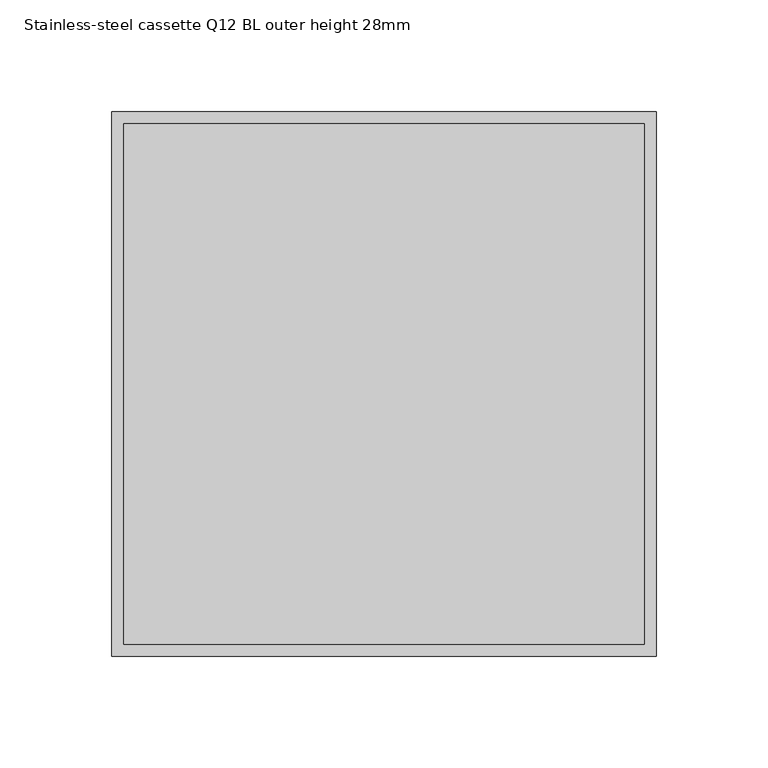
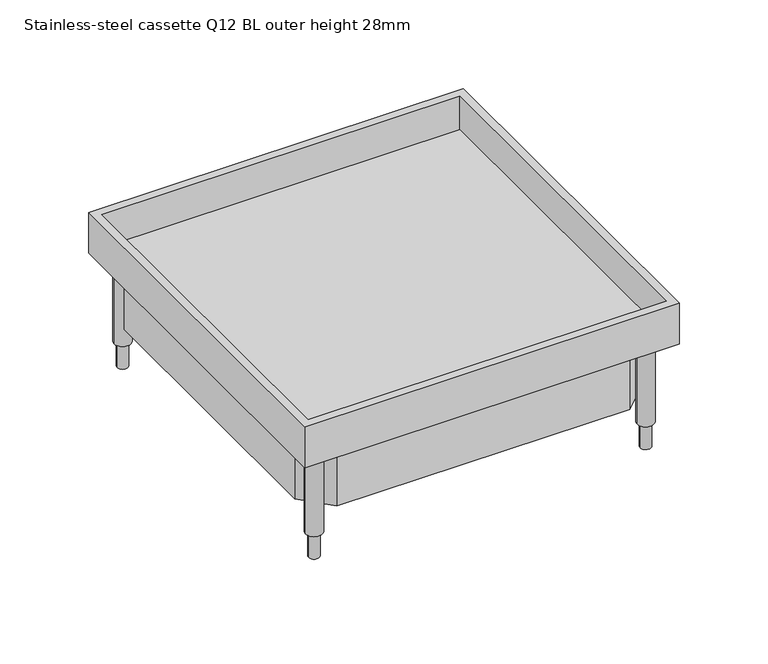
"""IFC4 building model written with IfcOpenShell, lengths in millimetres: proxy geometry, Electrical_Installation_Hager_VE-EE_EKQ-Height-adjustable-stainless-steel-cassette-blank-square-for-damp-cleaned-floors : Stainless-steel cassette Q12 BL outer height 28mm."""

from ifc_helpers import new_model, si_unit, point, frame, frame_2d, origin, place, context, project, spatial, polyline, circle_curve, trimmed, segment, composite_curve, outline, extrude, source, transform, mapped, element, save


def stainless_steel_cassette_q12_bl_outer_height_28mm_38aa1d54(model_context):
    return source(origin(), model_context, "Body", "SweptSolid", [
        extrude(outline(composite_curve([segment(trimmed(circle_curve(frame_2d((-108.0, 108.0)), 3.5), [point((-111.5, 108.0))], [point((-104.5, 108.0))], False, "CARTESIAN"), True, "CONTINUOUS"), segment(trimmed(circle_curve(frame_2d((-108.0, 108.0)), 3.5), [point((-104.5, 108.0))], [point((-111.5, 108.0))], False, "CARTESIAN"), True, "CONTINUOUS")], self_intersect=False)), frame((0.0, 0.0, -100.0), z_axis=(0.0, 0.0, 1.0), x_axis=(1.0, 0.0, 0.0)), (0.0, 0.0, 1.0), 17.0011554),
        extrude(outline(composite_curve([segment(trimmed(circle_curve(frame_2d((108.0, 108.0)), 3.5), [point((104.5, 108.0))], [point((111.5, 108.0))], False, "CARTESIAN"), True, "CONTINUOUS"), segment(trimmed(circle_curve(frame_2d((108.0, 108.0)), 3.5), [point((111.5, 108.0))], [point((104.5, 108.0))], False, "CARTESIAN"), True, "CONTINUOUS")], self_intersect=False)), frame((0.0, 0.0, -100.0), z_axis=(0.0, 0.0, 1.0), x_axis=(1.0, 0.0, 0.0)), (0.0, 0.0, 1.0), 17.0011554),
        extrude(outline(composite_curve([segment(trimmed(circle_curve(frame_2d((108.0, -108.0)), 3.523354), [point((104.476646, -108.0))], [point((111.523354, -108.0))], False, "CARTESIAN"), True, "CONTINUOUS"), segment(trimmed(circle_curve(frame_2d((108.0, -108.0)), 3.523354), [point((111.523354, -108.0))], [point((104.476646, -108.0))], False, "CARTESIAN"), True, "CONTINUOUS")], self_intersect=False)), frame((0.0, 0.0, -100.0), z_axis=(0.0, 0.0, 1.0), x_axis=(1.0, 0.0, 0.0)), (0.0, 0.0, 1.0), 17.0011554),
        extrude(outline(composite_curve([segment(trimmed(circle_curve(frame_2d((-108.0, -108.0)), 3.5), [point((-111.5, -108.0))], [point((-104.5, -108.0))], False, "CARTESIAN"), True, "CONTINUOUS"), segment(trimmed(circle_curve(frame_2d((-108.0, -108.0)), 3.5), [point((-104.5, -108.0))], [point((-111.5, -108.0))], False, "CARTESIAN"), True, "CONTINUOUS")], self_intersect=False)), frame((0.0, 0.0, -100.0), z_axis=(0.0, 0.0, 1.0), x_axis=(1.0, 0.0, 0.0)), (0.0, 0.0, 1.0), 17.0011554),
        extrude(outline(polyline([(4.7, 113.0), (95.3639966, 113.0), (113.0, 96.0470649), (113.0, -95.1394213), (94.7984665, -113.0), (-95.867755, -113.0), (-113.0, -95.1801256), (-113.0, 97.543544), (-95.6272863, 113.0), (4.7, 113.0)]), holes=[polyline([(-110.0, 96.3642535), (-110.0, -94.134929), (-94.4180331, -110.0), (93.4123304, -110.0), (110.0, -94.0355815), (110.0, 94.9312235), (93.9906502, 110.0), (4.7, 110.0), (-94.3203352, 110.0), (-110.0, 96.3642535)])]), frame((0.0, 0.0, -67.0), z_axis=(0.0, 0.0, 1.0), x_axis=(1.0, 0.0, 0.0)), (0.0, 0.0, 1.0), 41.0),
        extrude(outline(polyline([(116.5, 116.5), (116.5, -116.5), (-116.5, -116.5), (-116.5, 116.5), (116.5, 116.5)])), frame((0.0, 0.0, -26.0), z_axis=(0.0, 0.0, 1.0), x_axis=(1.0, 0.0, 0.0)), (0.0, 0.0, 1.0), 5.0),
        extrude(outline(composite_curve([segment(trimmed(circle_curve(frame_2d((-108.0, 108.0)), 5.5), [point((-113.5, 108.0))], [point((-102.5, 108.0))], False, "CARTESIAN"), True, "CONTINUOUS"), segment(trimmed(circle_curve(frame_2d((-108.0, 108.0)), 5.5), [point((-102.5, 108.0))], [point((-113.5, 108.0))], False, "CARTESIAN"), True, "CONTINUOUS")], self_intersect=False)), frame((0.0, 0.0, -82.9988446), z_axis=(0.0, 0.0, 1.0), x_axis=(1.0, 0.0, 0.0)), (0.0, 0.0, 1.0), 56.9988446),
        extrude(outline(composite_curve([segment(trimmed(circle_curve(frame_2d((108.0, 108.0)), 5.5), [point((102.5, 108.0))], [point((113.5, 108.0))], False, "CARTESIAN"), True, "CONTINUOUS"), segment(trimmed(circle_curve(frame_2d((108.0, 108.0)), 5.5), [point((113.5, 108.0))], [point((102.5, 108.0))], False, "CARTESIAN"), True, "CONTINUOUS")], self_intersect=False)), frame((0.0, 0.0, -82.9988446), z_axis=(0.0, 0.0, 1.0), x_axis=(1.0, 0.0, 0.0)), (0.0, 0.0, 1.0), 56.9988446),
        extrude(outline(composite_curve([segment(trimmed(circle_curve(frame_2d((-108.0, -108.0)), 5.5), [point((-113.5, -108.0))], [point((-102.5, -108.0))], False, "CARTESIAN"), True, "CONTINUOUS"), segment(trimmed(circle_curve(frame_2d((-108.0, -108.0)), 5.5), [point((-102.5, -108.0))], [point((-113.5, -108.0))], False, "CARTESIAN"), True, "CONTINUOUS")], self_intersect=False)), frame((0.0, 0.0, -82.9988446), z_axis=(0.0, 0.0, 1.0), x_axis=(1.0, 0.0, 0.0)), (0.0, 0.0, 1.0), 56.9988446),
        extrude(outline(composite_curve([segment(trimmed(circle_curve(frame_2d((108.0, -108.0)), 5.5), [point((102.5, -108.0))], [point((113.5, -108.0))], False, "CARTESIAN"), True, "CONTINUOUS"), segment(trimmed(circle_curve(frame_2d((108.0, -108.0)), 5.5), [point((113.5, -108.0))], [point((102.5, -108.0))], False, "CARTESIAN"), True, "CONTINUOUS")], self_intersect=False)), frame((0.0, 0.0, -82.9988446), z_axis=(0.0, 0.0, 1.0), x_axis=(1.0, 0.0, 0.0)), (0.0, 0.0, 1.0), 56.9988446),
        extrude(outline(polyline([(122.0, 122.0), (122.0, -122.0), (-122.0, -122.0), (-122.0, 122.0), (122.0, 122.0)]), holes=[polyline([(116.5, 116.5), (-116.5, 116.5), (-116.5, -116.5), (116.5, -116.5), (116.5, 116.5)])]), frame((0.0, 0.0, -26.0), z_axis=(0.0, 0.0, 1.0), x_axis=(1.0, 0.0, 0.0)), (0.0, 0.0, 1.0), 28.0),
    ])


if __name__ == "__main__":
    model = new_model("IFC4")
    model_context = context("Model", 3, world=origin())
    ifc_project = project(units=[si_unit("LENGTHUNIT", "METRE", prefix="MILLI")], contexts=[model_context])
    site = spatial("IfcSite", under=ifc_project)
    building = spatial("IfcBuilding", under=site)
    placement = place(None, origin())
    stainless_steel_cassette_q12_bl_outer_height_28mm_shape = stainless_steel_cassette_q12_bl_outer_height_28mm_38aa1d54(model_context)
    element("IfcBuildingElementProxy", 1, Name="Electrical_Installation_Hager_VE-EE_EKQ-Height-adjustable-stainless-steel-cassette-blank-square-for-damp-cleaned-floors : Stainless-steel cassette Q12 BL outer height 28mm", ObjectType="Electrical_Installation_Hager_VE-EE_EKQ-Height-adjustable-stainless-steel-cassette-blank-square-for-damp-cleaned-floors : Stainless-steel cassette Q12 BL outer height 28mm", at=placement, inside=building, context=model_context, shape_type="MappedRepresentation", body=[
        mapped(stainless_steel_cassette_q12_bl_outer_height_28mm_shape, transform((0.0, 0.0, 0.0), x_axis=(1.0, 0.0, 0.0), y_axis=(0.0, 1.0, 0.0), z_axis=(0.0, 0.0, 1.0))),
    ])
    save(model, "model.ifc")
